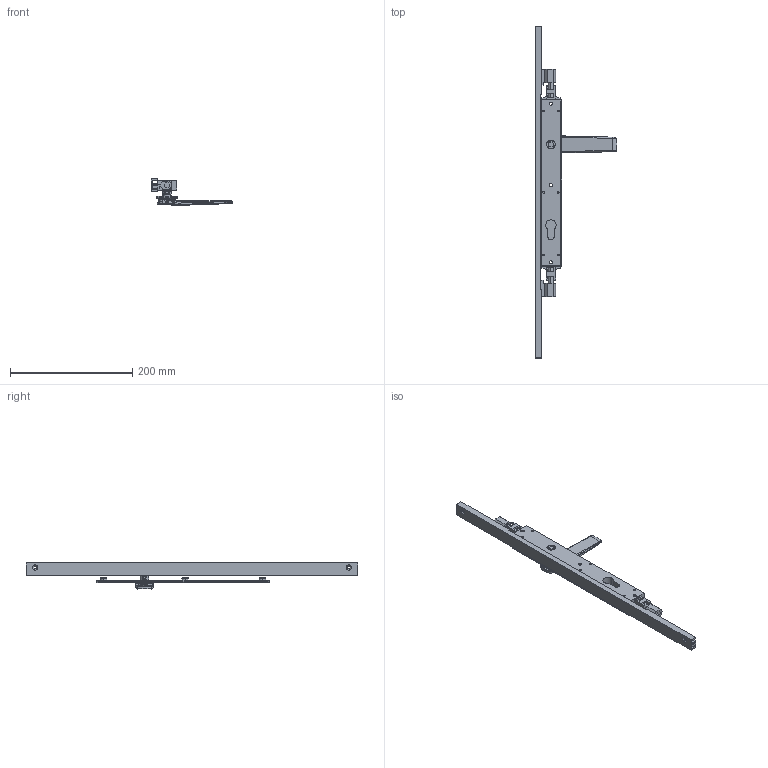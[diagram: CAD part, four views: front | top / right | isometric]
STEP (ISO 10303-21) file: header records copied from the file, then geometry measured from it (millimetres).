
FILE_DESCRIPTION (( 'STEP AP214' ), '1' );
FILE_NAME ('TPL-W-APC-605-U 28Oct2024.STEP', '2024-10-28T01:50:32', ( '' ), ( '' ), 'SwSTEP 2.0', 'SolidWorks 2023', '' );
FILE_SCHEMA (( 'AUTOMOTIVE_DESIGN' ));
Length unit declared in the file: millimetre
Products named in the file (18): Bolt.step; Copy of TPLGen2 lock body keyed assembly^TPL-W-APC-105 18Oct2024_Bolts retracted; Copy of Copy of LKC-531 Lock twinpoint transmission rod wood system^TPL-W-APC-105 18Oct2024_Standard Range 2891.7mm; Copy of LKC-584 Pivot body zinc - simplified^Copy of TPGen2 handle non-keyed long zinc - simplified_TPL-W-APC-105 18Oct2024; TPL-W-APC-605-U 28Oct2024; Copy of LKC-505 Swing handle zinc - simplified^Copy of TPGen2 handle non-keyed long zinc - simplified_TPL-W-APC-105 18Oct2024; Copy of Copy of Copy of LKC-531 Lock twinpoint transmission rod wood system^TPL-W-APC-105 18Oct2024_Standard Range 2891.7mm; Copy of COV-115-B Cover B suit TPLGen2 standard range AU with hinge holes^TPL-W-APC-105 18Oct2024_2870mm; Copy of LKC-586 Spindle square 8mm with M4 hole^Copy of TPGen2 handle non-keyed long zinc - simplified_TPL-W-APC-105 18Oct2024_25mm; Copy of LKC-583 Escutcheon plate unkeyed 285mm long zinc - simplified^Copy of TPGen2 handle non-keyed long zinc - simplified_TPL-W-APC-105 18Oct2024; Copy of Adapter C - simplfied^TPL-W-APC-105 18Oct2024; Copy of TPGen2 handle non-keyed long zinc - simplified^TPL-W-APC-105 18Oct2024_Left; Copy of TPLGen2 lock body keyed^Copy of TPLGen2 lock body keyed assembly_TPL-W-APC-105 18Oct2024; Copy of LKC-585 Rotator body zinc^Copy of TPGen2 handle non-keyed long zinc - simplified_TPL-W-APC-105 18Oct2024; Copy of Adapter D - simplfied^TPL-W-APC-105 18Oct2024; Copy of COV-115-C Cover C suit TPLGen2 standard range AU^TPL-W-APC-105 18Oct2024; Copy of TPLGen2 push rod - simplified^Copy of TPLGen2 lock body keyed assembly_TPL-W-APC-105 18Oct2024_Female thread M10; Copy of COV-115-A Cover A suit TPLGen2 standard range AU with hinge holes^TPL-W-APC-105 18Oct2024_2870mm
Assembly tree (15 placements, depth 3):
  Bolt.step
  TPL-W-APC-605-U 28Oct2024
    Copy of TPLGen2 lock body keyed assembly^TPL-W-APC-105 18Oct2024_Bolts retracted
      Copy of TPLGen2 lock body keyed^Copy of TPLGen2 lock body keyed assembly_TPL-W-APC-105 18Oct2024
      Copy of TPLGen2 push rod - simplified^Copy of TPLGen2 lock body keyed assembly_TPL-W-APC-105 18Oct2024_Female thread M10  x2
    Copy of TPGen2 handle non-keyed long zinc - simplified^TPL-W-APC-105 18Oct2024_Left
      Copy of LKC-583 Escutcheon plate unkeyed 285mm long zinc - simplified^Copy of TPGen2 handle non-keyed long zinc - simplified_TPL-W-APC-105 18Oct2024
      Copy of LKC-505 Swing handle zinc - simplified^Copy of TPGen2 handle non-keyed long zinc - simplified_TPL-W-APC-105 18Oct2024
      Copy of LKC-585 Rotator body zinc^Copy of TPGen2 handle non-keyed long zinc - simplified_TPL-W-APC-105 18Oct2024
      Copy of LKC-586 Spindle square 8mm with M4 hole^Copy of TPGen2 handle non-keyed long zinc - simplified_TPL-W-APC-105 18Oct2024_25mm
      Copy of LKC-584 Pivot body zinc - simplified^Copy of TPGen2 handle non-keyed long zinc - simplified_TPL-W-APC-105 18Oct2024
    Copy of COV-115-C Cover C suit TPLGen2 standard range AU^TPL-W-APC-105 18Oct2024
    Copy of Copy of LKC-531 Lock twinpoint transmission rod wood system^TPL-W-APC-105 18Oct2024_Standard Range 2891.7mm
    Copy of Copy of Copy of LKC-531 Lock twinpoint transmission rod wood system^TPL-W-APC-105 18Oct2024_Standard Range 2891.7mm
    Copy of Adapter C - simplfied^TPL-W-APC-105 18Oct2024
    Copy of Adapter D - simplfied^TPL-W-APC-105 18Oct2024
  Copy of COV-115-B Cover B suit TPLGen2 standard range AU with hinge holes^TPL-W-APC-105 18Oct2024_2870mm
  Copy of COV-115-A Cover A suit TPLGen2 standard range AU with hinge holes^TPL-W-APC-105 18Oct2024_2870mm
Bounding box: 134.12 x 544 x 42.86 mm (x, y, z)
Volume: 264719.4 mm3; surface area: 129906.8 mm2
Topology: 13 solids, 13 shells, 879 faces, 2163 edges, 1344 vertices
Faces by surface type: plane 306, bspline 241, cylinder 202, cone 70, torus 52, sphere 8
Entity records: 31536 total; most frequent: CARTESIAN_POINT 12721, ORIENTED_EDGE 4134, DIRECTION 3369, EDGE_CURVE 2067, VERTEX_POINT 1284, AXIS2_PLACEMENT_3D 1238, EDGE_LOOP 939, VECTOR 893
